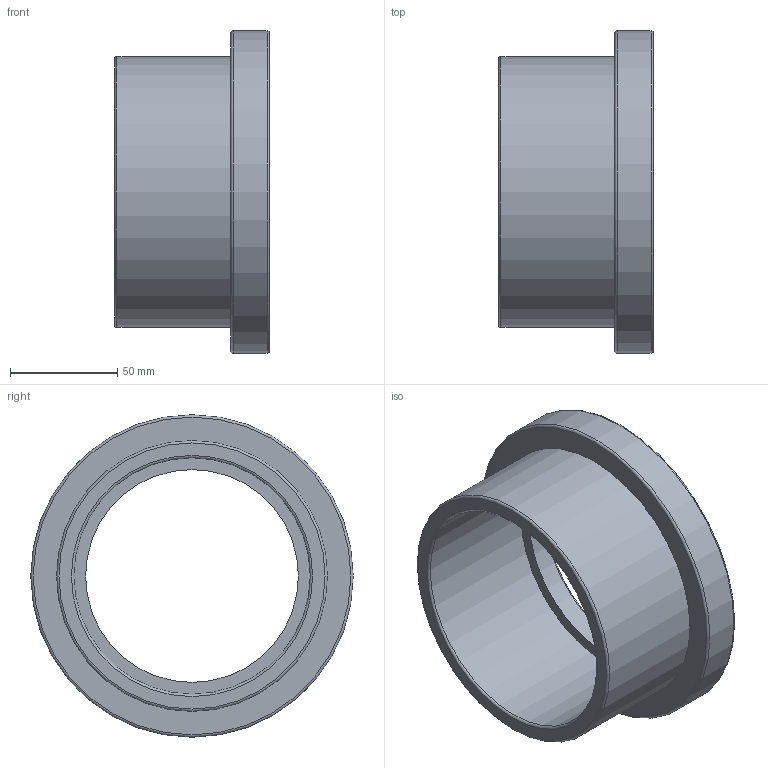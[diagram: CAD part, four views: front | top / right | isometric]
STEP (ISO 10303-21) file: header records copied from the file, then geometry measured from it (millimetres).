
FILE_DESCRIPTION(/* description */ ('PLASSON FLANGE AD.+O-RING-CE 110'),/* implementation_level */ '2;1');
FILE_NAME(/* name */ 'C:\Dropbox\KIMPROJECTS-Inventor\99-16-3568-Processing\PVC Catalog 2017\055000\055000110.ipt.stp',/* time_stamp */ '2017-12-07T16:04:42+02:00',/* author */ ('KIM'),/* organization */ (''),/* preprocessor_version */ 'ST-DEVELOPER v15.6',/* originating_system */ 'Autodesk Inventor 2015',/* authorisation */ '');
FILE_SCHEMA (('AUTOMOTIVE_DESIGN { 1 0 10303 214 3 1 1 }'));
Length unit declared in the file: millimetre
Products named in the file (1): 055000110
Bounding box: 72 x 150 x 150 mm (x, y, z)
Volume: 310359.2 mm3; surface area: 76849.7 mm2
Topology: 1 solids, 1 shells, 21 faces, 36 edges, 21 vertices
Faces by surface type: torus 9, plane 6, cylinder 6
Full cylindrical faces by diameter (mm): 99 x1, 110 x1, 116.85 x1, 126 x1, 132.15 x1, 150 x1
Entity records: 452 total; most frequent: DIRECTION 86, CARTESIAN_POINT 64, AXIS2_PLACEMENT_3D 43, EDGE_LOOP 42, ORIENTED_EDGE 42, FACE_BOUND 21, FACE_OUTER_BOUND 21, CIRCLE 21
